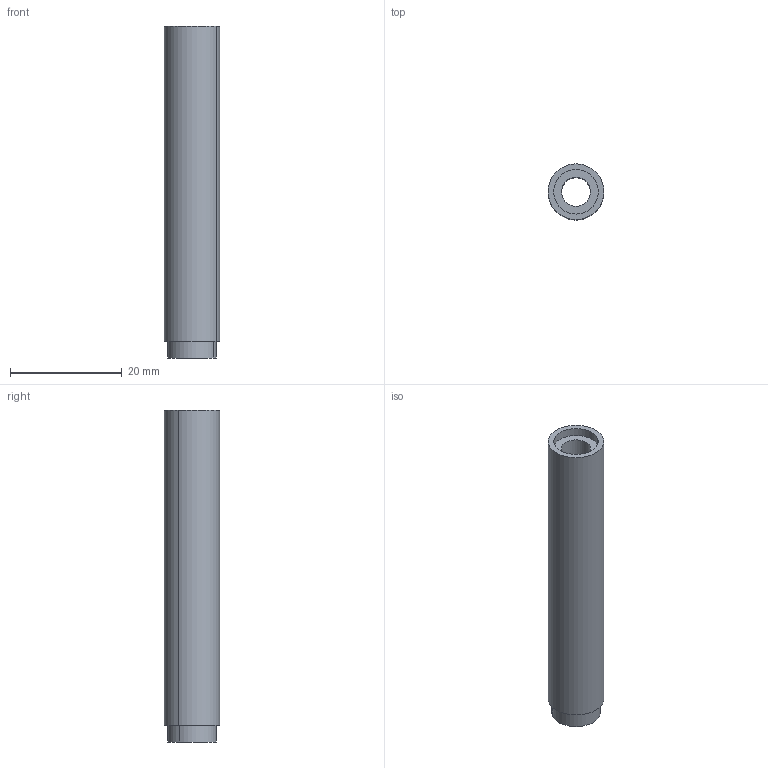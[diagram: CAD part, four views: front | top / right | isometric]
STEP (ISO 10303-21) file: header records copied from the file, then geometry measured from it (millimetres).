
FILE_DESCRIPTION(/* description */ ('VariCAD 2008 3.04 AP-203'),/* implementation_level */ '2;1');
FILE_NAME(/* name */ '0353-19-16',/* time_stamp */ '2009-04-25T10:46:50-06:00',/* author */ (''),/* organization */ (''),/* preprocessor_version */ 'ST-DEVELOPER v12',/* originating_system */ 'VariCAD 2008 3.04; kernel version (20080715)',/* authorisation */ '');
FILE_SCHEMA (('CONFIG_CONTROL_DESIGN'));
Length unit declared in the file: millimetre
Products named in the file (1): Part
Bounding box: 10 x 10 x 59.5 mm (x, y, z)
Volume: 3308.7 mm3; surface area: 2956.8 mm2
Topology: 1 solids, 1 shells, 12 faces, 24 edges, 16 vertices
Faces by surface type: cylinder 8, plane 4
Entity records: 374 total; most frequent: DIRECTION 68, CARTESIAN_POINT 54, ORIENTED_EDGE 48, AXIS2_PLACEMENT_3D 30, EDGE_CURVE 24, EDGE_LOOP 16, CIRCLE 16, VERTEX_POINT 16
